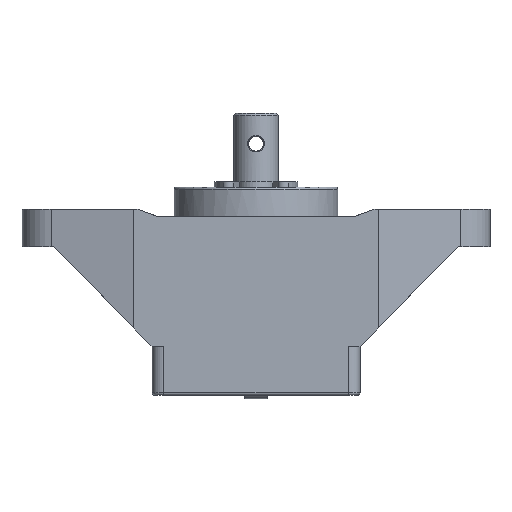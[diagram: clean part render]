
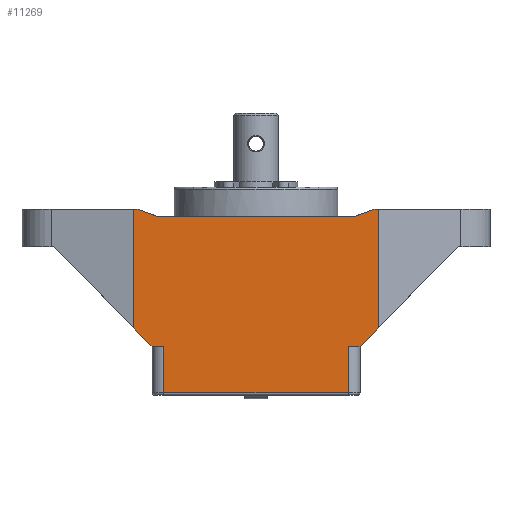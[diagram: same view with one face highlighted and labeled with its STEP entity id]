
A CAD part, front view. The second image highlights one B-rep face of the part: STEP entity #11269.
In plain terms, the highlighted planar face has unit normal (0, -1, 0).
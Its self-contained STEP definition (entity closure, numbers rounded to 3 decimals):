
#191 = CARTESIAN_POINT ( 'NONE',  ( 16.5, -13., -3. ) ) ;
#249 = CARTESIAN_POINT ( 'NONE',  ( 15.883, -13., -3. ) ) ;
#272 = CARTESIAN_POINT ( 'NONE',  ( 14., -13., -21.5 ) ) ;
#470 = VERTEX_POINT ( 'NONE', #14851 ) ;
#715 = DIRECTION ( 'NONE',  ( -0.699, 0., -0.715 ) ) ;
#1160 = CARTESIAN_POINT ( 'NONE',  ( -14., -13., -3. ) ) ;
#1195 = CARTESIAN_POINT ( 'NONE',  ( 13.136, -13., -4. ) ) ;
#1207 = DIRECTION ( 'NONE',  ( 0.94, 0., -0.342 ) ) ;
#1213 = CARTESIAN_POINT ( 'NONE',  ( -16.5, -13., -3. ) ) ;
#1303 = EDGE_CURVE ( 'NONE', #2315, #4384, #2151, .T. ) ;
#1389 = VECTOR ( 'NONE', #14855, 1000. ) ;
#1532 = AXIS2_PLACEMENT_3D ( 'NONE', #6144, #11783, #15971 ) ;
#1723 = VERTEX_POINT ( 'NONE', #4905 ) ;
#1781 = CARTESIAN_POINT ( 'NONE',  ( 16.5, -13., -18.943 ) ) ;
#2054 = LINE ( 'NONE', #7864, #17455 ) ;
#2131 = ORIENTED_EDGE ( 'NONE', *, *, #14441, .F. ) ;
#2151 = LINE ( 'NONE', #6111, #2499 ) ;
#2221 = DIRECTION ( 'NONE',  ( 0., 0., 1. ) ) ;
#2315 = VERTEX_POINT ( 'NONE', #5246 ) ;
#2335 = VECTOR ( 'NONE', #5561, 1000. ) ;
#2373 = CARTESIAN_POINT ( 'NONE',  ( -14., -13., -21.5 ) ) ;
#2382 = ORIENTED_EDGE ( 'NONE', *, *, #12460, .F. ) ;
#2409 = LINE ( 'NONE', #3619, #4192 ) ;
#2499 = VECTOR ( 'NONE', #11942, 1000. ) ;
#2517 = CARTESIAN_POINT ( 'NONE',  ( -14., -13., -21.5 ) ) ;
#2598 = VECTOR ( 'NONE', #5638, 1000. ) ;
#2601 = CARTESIAN_POINT ( 'NONE',  ( -15.883, -13., -3. ) ) ;
#2632 = VECTOR ( 'NONE', #715, 1000. ) ;
#2735 = EDGE_CURVE ( 'NONE', #1723, #470, #12943, .T. ) ;
#2961 = CARTESIAN_POINT ( 'NONE',  ( 12.4, -13., -27.7 ) ) ;
#3283 = VERTEX_POINT ( 'NONE', #9671 ) ;
#3614 = ORIENTED_EDGE ( 'NONE', *, *, #15962, .F. ) ;
#3619 = CARTESIAN_POINT ( 'NONE',  ( 16.5, -13., -8. ) ) ;
#3792 = CARTESIAN_POINT ( 'NONE',  ( 14., -13., -3. ) ) ;
#3853 = CARTESIAN_POINT ( 'NONE',  ( -16.5, -13., -8. ) ) ;
#4192 = VECTOR ( 'NONE', #2221, 1000. ) ;
#4384 = VERTEX_POINT ( 'NONE', #10675 ) ;
#4542 = DIRECTION ( 'NONE',  ( 0., 0., -1. ) ) ;
#4565 = CARTESIAN_POINT ( 'NONE',  ( 14., -13., -21.5 ) ) ;
#4628 = DIRECTION ( 'NONE',  ( -1., 0., 0. ) ) ;
#4693 = VECTOR ( 'NONE', #17424, 1000. ) ;
#4905 = CARTESIAN_POINT ( 'NONE',  ( 12.4, -13., -21.5 ) ) ;
#4979 = VERTEX_POINT ( 'NONE', #191 ) ;
#5007 = VECTOR ( 'NONE', #11136, 1000. ) ;
#5246 = CARTESIAN_POINT ( 'NONE',  ( -12.4, -13., -21.5 ) ) ;
#5371 = EDGE_CURVE ( 'NONE', #3283, #12519, #15461, .T. ) ;
#5485 = EDGE_CURVE ( 'NONE', #8999, #1723, #15924, .T. ) ;
#5561 = DIRECTION ( 'NONE',  ( -0.699, 0., 0.715 ) ) ;
#5638 = DIRECTION ( 'NONE',  ( 1., 0., 0. ) ) ;
#5671 = ORIENTED_EDGE ( 'NONE', *, *, #17910, .F. ) ;
#5706 = ORIENTED_EDGE ( 'NONE', *, *, #1303, .T. ) ;
#5738 = CARTESIAN_POINT ( 'NONE',  ( 12.4, -13., -19.237 ) ) ;
#5897 = ORIENTED_EDGE ( 'NONE', *, *, #5485, .F. ) ;
#6044 = VERTEX_POINT ( 'NONE', #1195 ) ;
#6111 = CARTESIAN_POINT ( 'NONE',  ( -12.4, -13., -19.237 ) ) ;
#6144 = CARTESIAN_POINT ( 'NONE',  ( -14., -13., -28. ) ) ;
#6499 = LINE ( 'NONE', #7791, #15026 ) ;
#7216 = CARTESIAN_POINT ( 'NONE',  ( 15.883, -13., -3. ) ) ;
#7688 = DIRECTION ( 'NONE',  ( 1., 0., 0. ) ) ;
#7727 = CARTESIAN_POINT ( 'NONE',  ( -13.136, -13., -4. ) ) ;
#7781 = ORIENTED_EDGE ( 'NONE', *, *, #14876, .F. ) ;
#7791 = CARTESIAN_POINT ( 'NONE',  ( -14., -13., -21.5 ) ) ;
#7864 = CARTESIAN_POINT ( 'NONE',  ( -8.9, -13., -4. ) ) ;
#8003 = CARTESIAN_POINT ( 'NONE',  ( -16.5, -13., -18.943 ) ) ;
#8091 = VERTEX_POINT ( 'NONE', #1781 ) ;
#8115 = DIRECTION ( 'NONE',  ( 1., 0., 0. ) ) ;
#8179 = LINE ( 'NONE', #1160, #5007 ) ;
#8999 = VERTEX_POINT ( 'NONE', #4565 ) ;
#9298 = VERTEX_POINT ( 'NONE', #1213 ) ;
#9590 = ORIENTED_EDGE ( 'NONE', *, *, #13593, .T. ) ;
#9671 = CARTESIAN_POINT ( 'NONE',  ( -15.883, -13., -3. ) ) ;
#10435 = EDGE_CURVE ( 'NONE', #8091, #4979, #2409, .T. ) ;
#10675 = CARTESIAN_POINT ( 'NONE',  ( -12.4, -13., -27.7 ) ) ;
#11136 = DIRECTION ( 'NONE',  ( 1., 0., 0. ) ) ;
#11269 = ADVANCED_FACE ( 'NONE', ( #11594 ), #14566, .T. ) ;
#11576 = LINE ( 'NONE', #7216, #4693 ) ;
#11594 = FACE_OUTER_BOUND ( 'NONE', #18058, .T. ) ;
#11623 = LINE ( 'NONE', #2961, #2598 ) ;
#11783 = DIRECTION ( 'NONE',  ( 0., -1., 0. ) ) ;
#11941 = ORIENTED_EDGE ( 'NONE', *, *, #16606, .F. ) ;
#11942 = DIRECTION ( 'NONE',  ( 0., 0., -1. ) ) ;
#12272 = VECTOR ( 'NONE', #4542, 1000. ) ;
#12344 = VECTOR ( 'NONE', #4628, 1000. ) ;
#12460 = EDGE_CURVE ( 'NONE', #17666, #9298, #13737, .T. ) ;
#12472 = VERTEX_POINT ( 'NONE', #2373 ) ;
#12519 = VERTEX_POINT ( 'NONE', #7727 ) ;
#12614 = ORIENTED_EDGE ( 'NONE', *, *, #10435, .T. ) ;
#12796 = ORIENTED_EDGE ( 'NONE', *, *, #5371, .F. ) ;
#12901 = EDGE_CURVE ( 'NONE', #2315, #12472, #6499, .T. ) ;
#12943 = LINE ( 'NONE', #5738, #12272 ) ;
#13201 = CARTESIAN_POINT ( 'NONE',  ( 14., -13., -21.5 ) ) ;
#13593 = EDGE_CURVE ( 'NONE', #4384, #470, #11623, .T. ) ;
#13737 = LINE ( 'NONE', #3853, #1389 ) ;
#14262 = ORIENTED_EDGE ( 'NONE', *, *, #12901, .F. ) ;
#14441 = EDGE_CURVE ( 'NONE', #16469, #4979, #15169, .T. ) ;
#14566 = PLANE ( 'NONE',  #1532 ) ;
#14707 = VECTOR ( 'NONE', #1207, 1000. ) ;
#14851 = CARTESIAN_POINT ( 'NONE',  ( 12.4, -13., -27.7 ) ) ;
#14855 = DIRECTION ( 'NONE',  ( 0., 0., 1. ) ) ;
#14876 = EDGE_CURVE ( 'NONE', #9298, #3283, #8179, .T. ) ;
#15026 = VECTOR ( 'NONE', #17524, 1000. ) ;
#15169 = LINE ( 'NONE', #3792, #17398 ) ;
#15196 = LINE ( 'NONE', #2517, #2335 ) ;
#15461 = LINE ( 'NONE', #2601, #14707 ) ;
#15620 = EDGE_CURVE ( 'NONE', #6044, #16469, #11576, .T. ) ;
#15924 = LINE ( 'NONE', #272, #12344 ) ;
#15962 = EDGE_CURVE ( 'NONE', #12472, #17666, #15196, .T. ) ;
#15971 = DIRECTION ( 'NONE',  ( 0., 0., -1. ) ) ;
#16369 = LINE ( 'NONE', #13201, #2632 ) ;
#16469 = VERTEX_POINT ( 'NONE', #249 ) ;
#16606 = EDGE_CURVE ( 'NONE', #8091, #8999, #16369, .T. ) ;
#16928 = ORIENTED_EDGE ( 'NONE', *, *, #15620, .F. ) ;
#17398 = VECTOR ( 'NONE', #8115, 1000. ) ;
#17424 = DIRECTION ( 'NONE',  ( 0.94, 0., 0.342 ) ) ;
#17455 = VECTOR ( 'NONE', #7688, 1000. ) ;
#17520 = ORIENTED_EDGE ( 'NONE', *, *, #2735, .F. ) ;
#17524 = DIRECTION ( 'NONE',  ( -1., 0., 0. ) ) ;
#17666 = VERTEX_POINT ( 'NONE', #8003 ) ;
#17910 = EDGE_CURVE ( 'NONE', #12519, #6044, #2054, .T. ) ;
#18058 = EDGE_LOOP ( 'NONE', ( #5706, #9590, #17520, #5897, #11941, #12614, #2131, #16928, #5671, #12796, #7781, #2382, #3614, #14262 ) ) ;
